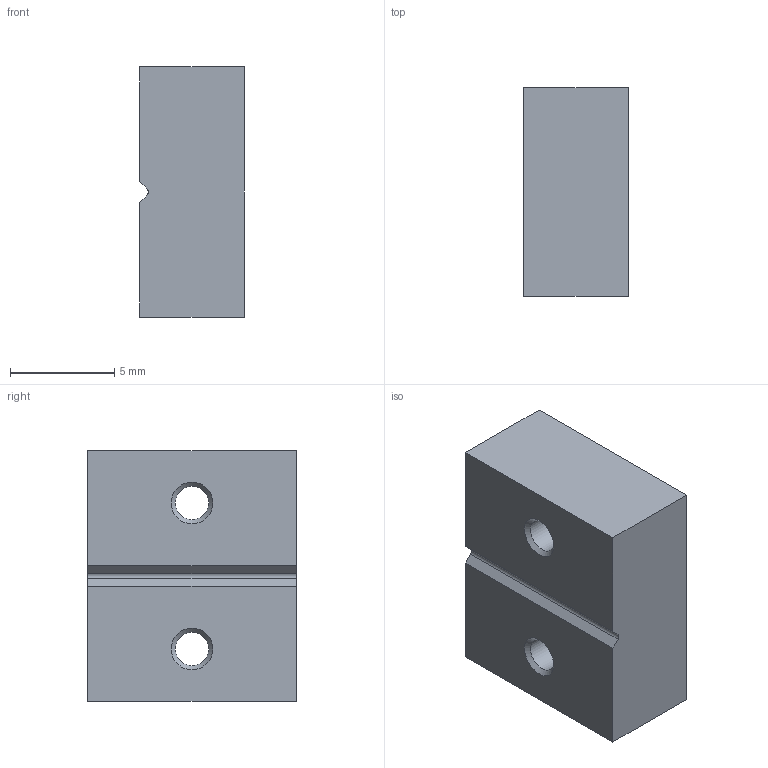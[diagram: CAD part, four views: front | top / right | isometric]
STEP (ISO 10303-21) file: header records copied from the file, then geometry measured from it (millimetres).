
FILE_DESCRIPTION(/* description */ (''),/* implementation_level */ '2;1');
FILE_NAME(/* name */ '2020TOMO-CRIMP.07.stp',/* time_stamp */ '2021-01-20T14:50:25+01:00',/* author */ (''),/* organization */ (''),/* preprocessor_version */ 'ST-DEVELOPER v16.7',/* originating_system */ 'SIEMENS PLM Software NX 1892',/* authorisation */ '');
FILE_SCHEMA (('AUTOMOTIVE_DESIGN { 1 0 10303 214 3 1 1 1 }'));
Length unit declared in the file: millimetre
Products named in the file (1): turc131041948isq
Bounding box: 5 x 10 x 12 mm (x, y, z)
Volume: 577.1 mm3; surface area: 502.8 mm2
Topology: 1 solids, 1 shells, 16 faces, 40 edges, 26 vertices
Faces by surface type: plane 9, cone 4, cylinder 3
Full cylindrical faces by diameter (mm): 1.6 x2
Entity records: 470 total; most frequent: DIRECTION 76, CARTESIAN_POINT 73, ORIENTED_EDGE 64, EDGE_CURVE 32, AXIS2_PLACEMENT_3D 27, EDGE_LOOP 26, VERTEX_POINT 24, LINE 22
